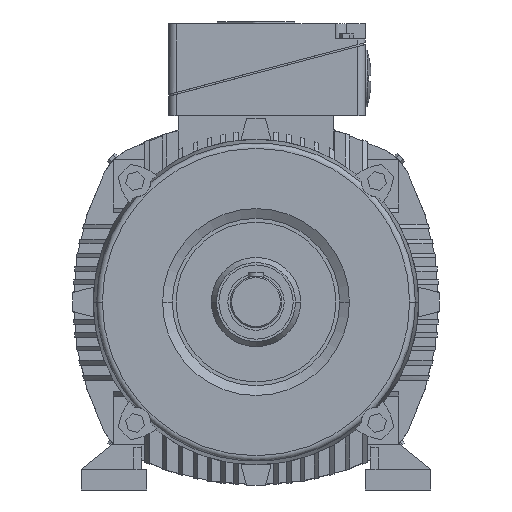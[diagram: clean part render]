
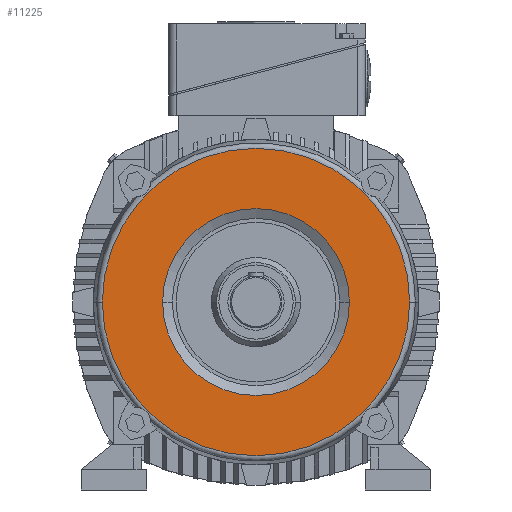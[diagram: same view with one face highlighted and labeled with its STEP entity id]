
A CAD part, front view. The second image highlights one B-rep face of the part: STEP entity #11225.
In plain terms, the highlighted planar face has unit normal (0, -1, 0).
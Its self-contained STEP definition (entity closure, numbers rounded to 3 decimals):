
#4393=EDGE_CURVE('',#6279,#8547,#13046,.T.);
#5053=VERTEX_POINT('',#13770);
#6279=VERTEX_POINT('',#15111);
#7403=VERTEX_POINT('',#16341);
#7865=EDGE_CURVE('',#5053,#7403,#16848,.T.);
#8547=VERTEX_POINT('',#17584);
#11225=ADVANCED_FACE('',(#20504,#20505),#20506,.T.);
#11359=EDGE_CURVE('',#7403,#5053,#20650,.T.);
#11389=EDGE_CURVE('',#8547,#6279,#20684,.T.);
#13046=CIRCLE('',#22496,99.392);
#13770=CARTESIAN_POINT('',(-163.565,-47.0,0.));
#15111=CARTESIAN_POINT('',(99.392,-47.0,0.));
#16341=CARTESIAN_POINT('',(163.565,-47.0,0.0));
#16848=CIRCLE('',#29592,163.565);
#17584=CARTESIAN_POINT('',(-99.392,-47.0,0.));
#20504=FACE_BOUND('',#37480,.T.);
#20505=FACE_OUTER_BOUND('',#37481,.T.);
#20506=PLANE('',#37482);
#20650=CIRCLE('',#37902,163.565);
#20684=CIRCLE('',#37959,99.392);
#22496=AXIS2_PLACEMENT_3D('',#41621,#41622,#41623);
#29592=AXIS2_PLACEMENT_3D('',#45852,#45853,#45854);
#37480=EDGE_LOOP('',(#49608,#49609));
#37481=EDGE_LOOP('',(#49610,#49611));
#37482=AXIS2_PLACEMENT_3D('',#49612,#49613,#49614);
#37902=AXIS2_PLACEMENT_3D('',#49739,#49740,#49741);
#37959=AXIS2_PLACEMENT_3D('',#49783,#49784,#49785);
#41621=CARTESIAN_POINT('',(0.0,-47.0,0.0));
#41622=DIRECTION('',(0.,1.0,0.0));
#41623=DIRECTION('',(1.0,0.,0.0));
#45852=CARTESIAN_POINT('',(0.0,-47.0,0.0));
#45853=DIRECTION('',(0.0,-1.0,0.0));
#45854=DIRECTION('',(1.0,0.0,0.0));
#49608=ORIENTED_EDGE('',*,*,#11389,.T.);
#49609=ORIENTED_EDGE('',*,*,#4393,.T.);
#49610=ORIENTED_EDGE('',*,*,#11359,.T.);
#49611=ORIENTED_EDGE('',*,*,#7865,.T.);
#49612=CARTESIAN_POINT('',(81.783,-47.0,0.0));
#49613=DIRECTION('',(0.,-1.0,0.0));
#49614=DIRECTION('',(1.0,0.,0.0));
#49739=CARTESIAN_POINT('',(0.0,-47.0,0.0));
#49740=DIRECTION('',(0.0,-1.0,0.0));
#49741=DIRECTION('',(1.0,0.0,0.0));
#49783=CARTESIAN_POINT('',(0.0,-47.0,0.0));
#49784=DIRECTION('',(0.,1.0,0.0));
#49785=DIRECTION('',(1.0,0.,0.0));
